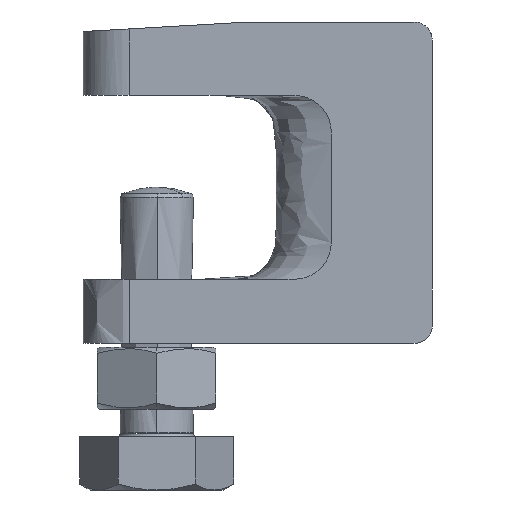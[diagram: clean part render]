
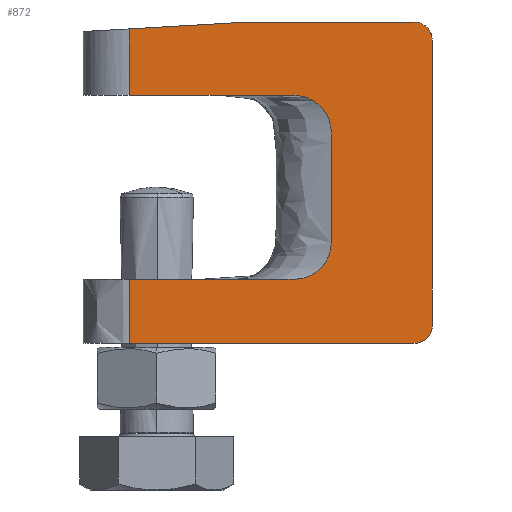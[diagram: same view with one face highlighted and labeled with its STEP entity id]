
A CAD part, left-side view. The second image highlights one B-rep face of the part: STEP entity #872.
In plain terms, the highlighted planar face has unit normal (-1, 0, 0).
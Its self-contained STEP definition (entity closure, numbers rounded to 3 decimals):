
#62=PLANE($,#1967);
#260=B_SPLINE_CURVE_WITH_KNOTS($,1,(#5412,#5413),.UNSPECIFIED.,.F.,.F.,(2,
2),(18.001,36.),.UNSPECIFIED.);
#261=B_SPLINE_CURVE_WITH_KNOTS($,1,(#5414,#5415),.UNSPECIFIED.,.F.,.F.,(2,
2),(292.991,323.991),.UNSPECIFIED.);
#262=B_SPLINE_CURVE_WITH_KNOTS($,1,(#5416,#5417),.UNSPECIFIED.,.F.,.F.,(2,
2),(-6.,25.),.UNSPECIFIED.);
#263=B_SPLINE_CURVE_WITH_KNOTS($,1,(#5443,#5444),.UNSPECIFIED.,.F.,.F.,(2,
2),(0.,7.25),.UNSPECIFIED.);
#264=B_SPLINE_CURVE_WITH_KNOTS($,3,(#5445,#5446,#5447,#5448),.UNSPECIFIED.,
.F.,.F.,(4,4),(5.008,18.031),.UNSPECIFIED.);
#872=ADVANCED_FACE($,(#939),#62,.T.);
#939=FACE_OUTER_BOUND($,#1013,.T.);
#1013=EDGE_LOOP($,(#1304,#1305,#1306,#1307,#1308,#1309,#1310,#1311,#1312));
#1304=ORIENTED_EDGE($,*,*,#1581,.F.);
#1305=ORIENTED_EDGE($,*,*,#1580,.F.);
#1306=ORIENTED_EDGE($,*,*,#1576,.F.);
#1307=ORIENTED_EDGE($,*,*,#1578,.F.);
#1308=ORIENTED_EDGE($,*,*,#1577,.F.);
#1309=ORIENTED_EDGE($,*,*,#1579,.F.);
#1310=ORIENTED_EDGE($,*,*,#1575,.F.);
#1311=ORIENTED_EDGE($,*,*,#1583,.F.);
#1312=ORIENTED_EDGE($,*,*,#1582,.F.);
#1575=EDGE_CURVE($,#1820,#1824,#260,.T.);
#1576=EDGE_CURVE($,#1821,#1819,#261,.T.);
#1577=EDGE_CURVE($,#1823,#1822,#262,.T.);
#1578=EDGE_CURVE($,#1822,#1821,#1920,.T.);
#1579=EDGE_CURVE($,#1824,#1823,#1921,.T.);
#1580=EDGE_CURVE($,#1819,#1825,#1922,.T.);
#1581=EDGE_CURVE($,#1825,#1826,#1923,.T.);
#1582=EDGE_CURVE($,#1826,#1827,#263,.T.);
#1583=EDGE_CURVE($,#1827,#1820,#264,.T.);
#1819=VERTEX_POINT($,#5450);
#1820=VERTEX_POINT($,#5451);
#1821=VERTEX_POINT($,#5452);
#1822=VERTEX_POINT($,#5453);
#1823=VERTEX_POINT($,#5454);
#1824=VERTEX_POINT($,#5455);
#1825=VERTEX_POINT($,#5456);
#1826=VERTEX_POINT($,#5457);
#1827=VERTEX_POINT($,#5458);
#1920=(
BOUNDED_CURVE()
B_SPLINE_CURVE(2,(#5418,#5419,#5420),.UNSPECIFIED.,.F.,.F.)
B_SPLINE_CURVE_WITH_KNOTS((3,3),(-1.,0.),.UNSPECIFIED.)
CURVE()
GEOMETRIC_REPRESENTATION_ITEM()
RATIONAL_B_SPLINE_CURVE((1.,0.707,1.))
REPRESENTATION_ITEM($)
);
#1921=(
BOUNDED_CURVE()
B_SPLINE_CURVE(2,(#5421,#5422,#5423),.UNSPECIFIED.,.F.,.F.)
B_SPLINE_CURVE_WITH_KNOTS((3,3),(0.,1.),.UNSPECIFIED.)
CURVE()
GEOMETRIC_REPRESENTATION_ITEM()
RATIONAL_B_SPLINE_CURVE((1.,0.707,1.))
REPRESENTATION_ITEM($)
);
#1922=(
BOUNDED_CURVE()
B_SPLINE_CURVE(3,(#5424,#5425,#5426,#5427),.UNSPECIFIED.,.F.,.F.)
B_SPLINE_CURVE_WITH_KNOTS((4,4),(0.,7.),.UNSPECIFIED.)
CURVE()
GEOMETRIC_REPRESENTATION_ITEM()
RATIONAL_B_SPLINE_CURVE((1.,1.,1.,1.))
REPRESENTATION_ITEM($)
);
#1923=(
BOUNDED_CURVE()
B_SPLINE_CURVE(2,(#5428,#5429,#5430,#5431,#5432,#5433,#5434,#5435,#5436,
#5437,#5438,#5439,#5440,#5441,#5442),.UNSPECIFIED.,.F.,.F.)
B_SPLINE_CURVE_WITH_KNOTS((3,2,2,2,2,2,2,3),(-43.,-27.,-25.,-18.717,
-6.717,-0.434,1.566,17.566),
.UNSPECIFIED.)
CURVE()
GEOMETRIC_REPRESENTATION_ITEM()
RATIONAL_B_SPLINE_CURVE((1.,1.,1.,1.,1.,0.707,1.,1.,1.,0.707,
1.,1.,1.,1.,1.))
REPRESENTATION_ITEM($)
);
#1967=AXIS2_PLACEMENT_3D($,#5449,#1995,$);
#1995=DIRECTION($,(-1.,0.,0.));
#5412=CARTESIAN_POINT($,(-8.,19.999,35.));
#5413=CARTESIAN_POINT($,(-8.,2.,35.));
#5414=CARTESIAN_POINT($,(-8.,2.,0.));
#5415=CARTESIAN_POINT($,(-8.,33.,0.));
#5416=CARTESIAN_POINT($,(-8.,0.,33.));
#5417=CARTESIAN_POINT($,(-8.,0.,2.));
#5418=CARTESIAN_POINT($,(-8.,0.,2.));
#5419=CARTESIAN_POINT($,(-8.,0.,0.));
#5420=CARTESIAN_POINT($,(-8.,2.,0.));
#5421=CARTESIAN_POINT($,(-8.,2.,35.));
#5422=CARTESIAN_POINT($,(-8.,0.,35.));
#5423=CARTESIAN_POINT($,(-8.,0.,33.));
#5424=CARTESIAN_POINT($,(-8.,33.,0.));
#5425=CARTESIAN_POINT($,(-8.,33.,2.333));
#5426=CARTESIAN_POINT($,(-8.,33.,4.667));
#5427=CARTESIAN_POINT($,(-8.,33.,7.));
#5428=CARTESIAN_POINT($,(-8.,33.,7.));
#5429=CARTESIAN_POINT($,(-8.,25.,7.));
#5430=CARTESIAN_POINT($,(-8.,17.,7.));
#5431=CARTESIAN_POINT($,(-8.,16.,7.));
#5432=CARTESIAN_POINT($,(-8.,15.,7.));
#5433=CARTESIAN_POINT($,(-8.,11.,7.));
#5434=CARTESIAN_POINT($,(-8.,11.,11.));
#5435=CARTESIAN_POINT($,(-8.,11.,17.));
#5436=CARTESIAN_POINT($,(-8.,11.,23.));
#5437=CARTESIAN_POINT($,(-8.,11.,27.));
#5438=CARTESIAN_POINT($,(-8.,15.,27.));
#5439=CARTESIAN_POINT($,(-8.,16.,27.));
#5440=CARTESIAN_POINT($,(-8.,17.,27.));
#5441=CARTESIAN_POINT($,(-8.,25.,27.));
#5442=CARTESIAN_POINT($,(-8.,33.,27.));
#5443=CARTESIAN_POINT($,(-8.,33.,27.));
#5444=CARTESIAN_POINT($,(-8.,33.,34.25));
#5445=CARTESIAN_POINT($,(-8.,33.,34.25));
#5446=CARTESIAN_POINT($,(-8.,28.666,34.5));
#5447=CARTESIAN_POINT($,(-8.,24.332,34.75));
#5448=CARTESIAN_POINT($,(-8.,19.999,35.));
#5449=CARTESIAN_POINT($,(-8.,0.,0.));
#5450=CARTESIAN_POINT($,(-8.,33.,0.));
#5451=CARTESIAN_POINT($,(-8.,19.999,35.));
#5452=CARTESIAN_POINT($,(-8.,2.,0.));
#5453=CARTESIAN_POINT($,(-8.,0.,2.));
#5454=CARTESIAN_POINT($,(-8.,0.,33.));
#5455=CARTESIAN_POINT($,(-8.,2.,35.));
#5456=CARTESIAN_POINT($,(-8.,33.,7.));
#5457=CARTESIAN_POINT($,(-8.,33.,27.));
#5458=CARTESIAN_POINT($,(-8.,33.,34.25));
